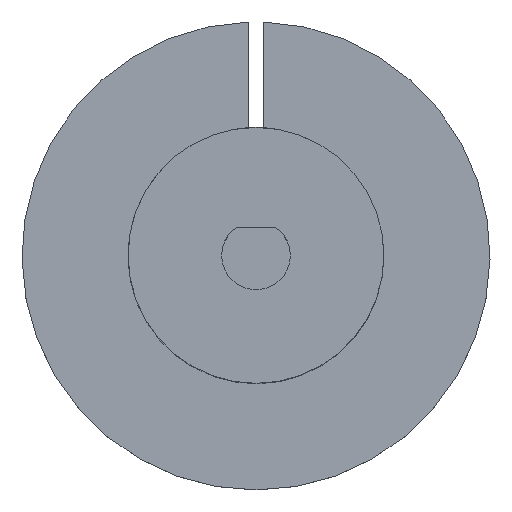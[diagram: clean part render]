
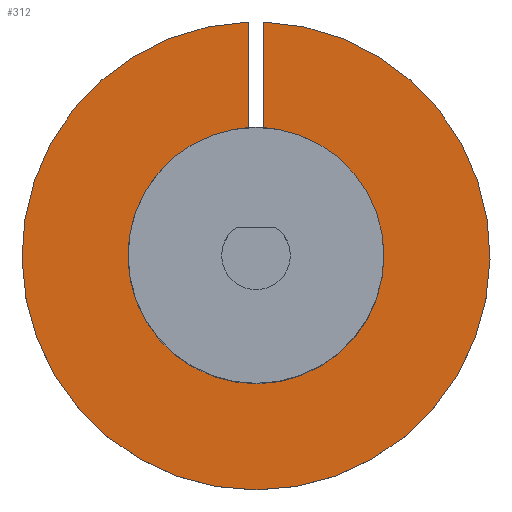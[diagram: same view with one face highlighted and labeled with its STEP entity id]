
A CAD part, top view. The second image highlights one B-rep face of the part: STEP entity #312.
In plain terms, the highlighted planar face has unit normal (0, 0, 1).
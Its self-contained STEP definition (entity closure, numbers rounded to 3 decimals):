
#41=FACE_OUTER_BOUND('',#58,.T.);
#58=EDGE_LOOP('',(#239,#240,#241,#242,#243));
#76=CIRCLE('',#351,15.);
#80=CIRCLE('',#358,8.2);
#81=CIRCLE('',#359,8.2);
#95=LINE('',#517,#117);
#100=LINE('',#531,#122);
#117=VECTOR('',#401,10.);
#122=VECTOR('',#414,10.);
#144=VERTEX_POINT('',#515);
#145=VERTEX_POINT('',#516);
#148=VERTEX_POINT('',#524);
#150=VERTEX_POINT('',#530);
#153=VERTEX_POINT('',#540);
#176=EDGE_CURVE('',#144,#145,#95,.T.);
#180=EDGE_CURVE('',#148,#144,#76,.T.);
#183=EDGE_CURVE('',#150,#148,#100,.T.);
#188=EDGE_CURVE('',#153,#150,#80,.T.);
#189=EDGE_CURVE('',#145,#153,#81,.T.);
#239=ORIENTED_EDGE('',*,*,#183,.F.);
#240=ORIENTED_EDGE('',*,*,#188,.F.);
#241=ORIENTED_EDGE('',*,*,#189,.F.);
#242=ORIENTED_EDGE('',*,*,#176,.F.);
#243=ORIENTED_EDGE('',*,*,#180,.F.);
#298=PLANE('',#357);
#312=ADVANCED_FACE('',(#41),#298,.T.);
#351=AXIS2_PLACEMENT_3D('',#525,#407,#408);
#357=AXIS2_PLACEMENT_3D('',#539,#423,#424);
#358=AXIS2_PLACEMENT_3D('',#541,#425,#426);
#359=AXIS2_PLACEMENT_3D('',#542,#427,#428);
#401=DIRECTION('',(0.,-1.,0.));
#407=DIRECTION('center_axis',(0.,0.,-1.));
#408=DIRECTION('ref_axis',(0.033,0.999,0.));
#414=DIRECTION('',(0.,1.,0.));
#423=DIRECTION('center_axis',(0.,0.,1.));
#424=DIRECTION('ref_axis',(1.,0.,0.));
#425=DIRECTION('center_axis',(0.,0.,1.));
#426=DIRECTION('ref_axis',(-1.,0.,0.));
#427=DIRECTION('center_axis',(0.,0.,1.));
#428=DIRECTION('ref_axis',(-1.,0.,0.));
#515=CARTESIAN_POINT('',(-0.5,14.992,16.));
#516=CARTESIAN_POINT('',(-0.5,8.185,16.));
#517=CARTESIAN_POINT('',(-0.5,14.992,16.));
#524=CARTESIAN_POINT('',(0.5,14.992,16.));
#525=CARTESIAN_POINT('Origin',(0.,0.,16.));
#530=CARTESIAN_POINT('',(0.5,8.185,16.));
#531=CARTESIAN_POINT('',(0.5,8.185,16.));
#539=CARTESIAN_POINT('Origin',(0.,1.156,16.));
#540=CARTESIAN_POINT('',(8.2,0.,16.));
#541=CARTESIAN_POINT('Origin',(0.,0.,16.));
#542=CARTESIAN_POINT('Origin',(0.,0.,16.));
